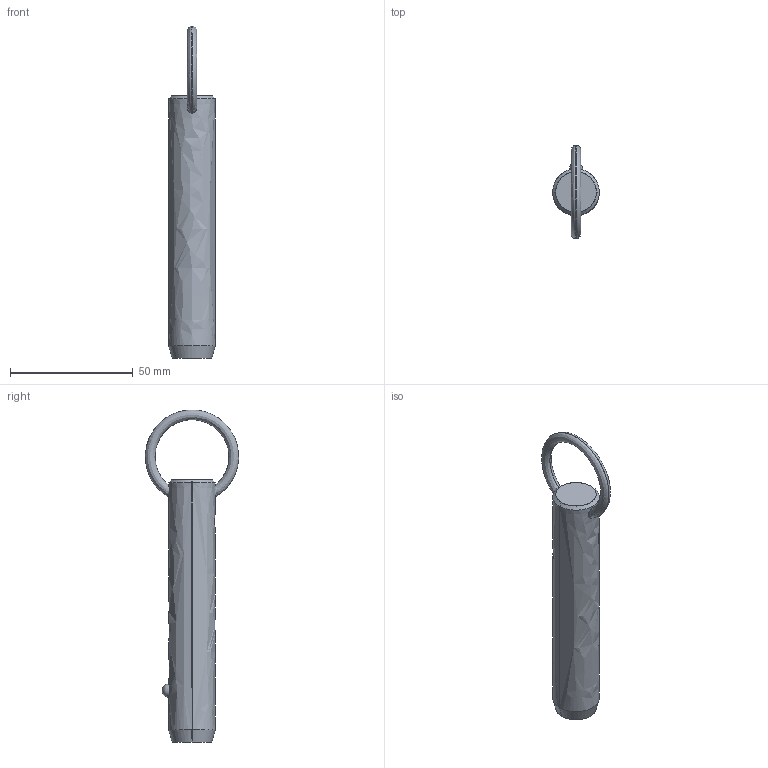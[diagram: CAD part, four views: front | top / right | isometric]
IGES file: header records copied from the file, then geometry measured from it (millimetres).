
Start section: SolidWorks IGES file using analytic representation for surfaces
Global section: file name: C:\Users\liam_\OneDrive\Documents\WORK\Work for WixRoyd\Job Files\J-00019 - Matt Davis CAD Checking\04. CAD Drawings\automotion20190605\P1250.2_v2\P1250.2_v2_20190729_IGES\P1250.075-290.igs; native system: SolidWorks 2017; preprocessor: SolidWorks 2017; author: liam_; date: 190729.235115; units: millimetre
Bounding box: 19 x 38.03 x 135.48 mm (x, y, z)
Surface area: 7913.7 mm2 (no closed solid volume)
Topology: 0 solids, 0 shells, 12 faces, 294 edges, 292 vertices
Faces by surface type: revolution 8, bspline 4
